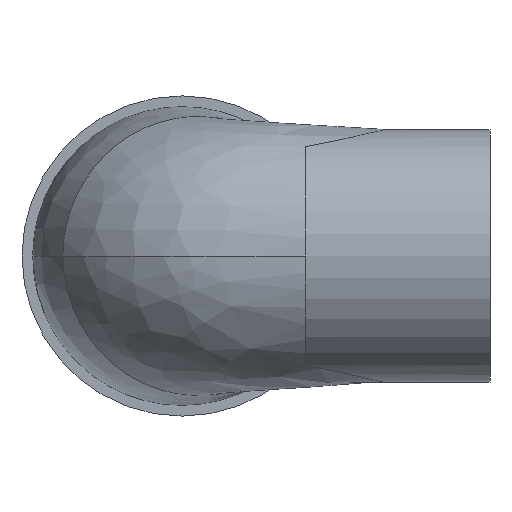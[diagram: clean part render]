
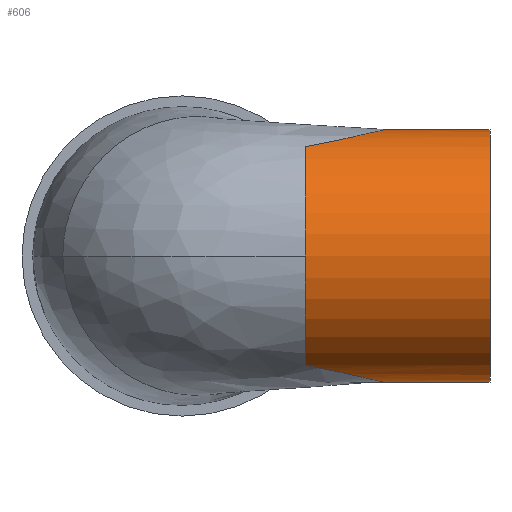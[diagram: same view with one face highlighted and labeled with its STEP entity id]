
A CAD part, left-side view. The second image highlights one B-rep face of the part: STEP entity #606.
In plain terms, the highlighted cylindrical face has radius 20.5 mm (diameter 41 mm), a partial arc.
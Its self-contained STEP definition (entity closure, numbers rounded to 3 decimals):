
#555 = ORIENTED_EDGE ( 'NONE', *, *, #616, .T. ) ;
#556 = ORIENTED_EDGE ( 'NONE', *, *, #710, .T. ) ;
#558 = ORIENTED_EDGE ( 'NONE', *, *, #559, .F. ) ;
#559 = EDGE_CURVE ( 'NONE', #771, #605, #3073, .T. ) ;
#590 = ORIENTED_EDGE ( 'NONE', *, *, #770, .F. ) ;
#604 = ORIENTED_EDGE ( 'NONE', *, *, #782, .F. ) ;
#605 = VERTEX_POINT ( 'NONE', #3531 ) ;
#606 = ADVANCED_FACE ( 'NONE', ( #3556 ), #3555, .T. ) ;
#611 = ORIENTED_EDGE ( 'NONE', *, *, #612, .F. ) ;
#612 = EDGE_CURVE ( 'NONE', #605, #779, #3465, .T. ) ;
#616 = EDGE_CURVE ( 'NONE', #768, #767, #2206, .T. ) ;
#617 = EDGE_LOOP ( 'NONE', ( #590, #555, #556, #604, #611, #558 ) ) ;
#710 = EDGE_CURVE ( 'NONE', #767, #775, #1033, .T. ) ;
#767 = VERTEX_POINT ( 'NONE', #1483 ) ;
#768 = VERTEX_POINT ( 'NONE', #1482 ) ;
#770 = EDGE_CURVE ( 'NONE', #768, #771, #1481, .T. ) ;
#771 = VERTEX_POINT ( 'NONE', #1477 ) ;
#775 = VERTEX_POINT ( 'NONE', #1539 ) ;
#779 = VERTEX_POINT ( 'NONE', #1536 ) ;
#782 = EDGE_CURVE ( 'NONE', #779, #775, #1575, .T. ) ;
#1030 = DIRECTION ( 'NONE',  ( 0., 1., 0. ) ) ;
#1031 = VECTOR ( 'NONE', #1030, 1000. ) ;
#1032 = CARTESIAN_POINT ( 'NONE',  ( 0., 80.819, 20.5 ) ) ;
#1033 = LINE ( 'NONE', #1032, #1031 ) ;
#1477 = CARTESIAN_POINT ( 'NONE',  ( 0., -33.661, -20.5 ) ) ;
#1478 = DIRECTION ( 'NONE',  ( 0., 1., 0. ) ) ;
#1479 = VECTOR ( 'NONE', #1478, 1000. ) ;
#1480 = CARTESIAN_POINT ( 'NONE',  ( 0., 80.819, -20.5 ) ) ;
#1481 = LINE ( 'NONE', #1480, #1479 ) ;
#1482 = CARTESIAN_POINT ( 'NONE',  ( 0., -50., -20.5 ) ) ;
#1483 = CARTESIAN_POINT ( 'NONE',  ( 0., -50., 20.5 ) ) ;
#1536 = CARTESIAN_POINT ( 'NONE',  ( -10.231, -20., 17.765 ) ) ;
#1539 = CARTESIAN_POINT ( 'NONE',  ( 0., -33.661, 20.5 ) ) ;
#1558 = CARTESIAN_POINT ( 'NONE',  ( 0., -33.661, 20.5 ) ) ;
#1559 = CARTESIAN_POINT ( 'NONE',  ( -0.348, -33.518, 20.5 ) ) ;
#1560 = CARTESIAN_POINT ( 'NONE',  ( -0.688, -33.358, 20.491 ) ) ;
#1561 = CARTESIAN_POINT ( 'NONE',  ( -1.347, -33.011, 20.458 ) ) ;
#1562 = CARTESIAN_POINT ( 'NONE',  ( -1.668, -32.823, 20.434 ) ) ;
#1563 = CARTESIAN_POINT ( 'NONE',  ( -2.292, -32.424, 20.374 ) ) ;
#1564 = CARTESIAN_POINT ( 'NONE',  ( -2.595, -32.211, 20.337 ) ) ;
#1565 = CARTESIAN_POINT ( 'NONE',  ( -3.187, -31.763, 20.253 ) ) ;
#1566 = CARTESIAN_POINT ( 'NONE',  ( -3.476, -31.526, 20.205 ) ) ;
#1567 = CARTESIAN_POINT ( 'NONE',  ( -4.868, -30.299, 19.946 ) ) ;
#1568 = CARTESIAN_POINT ( 'NONE',  ( -5.815, -29.183, 19.677 ) ) ;
#1569 = CARTESIAN_POINT ( 'NONE',  ( -7.46, -26.738, 19.114 ) ) ;
#1570 = CARTESIAN_POINT ( 'NONE',  ( -8.132, -25.445, 18.829 ) ) ;
#1571 = CARTESIAN_POINT ( 'NONE',  ( -9.299, -22.779, 18.281 ) ) ;
#1572 = CARTESIAN_POINT ( 'NONE',  ( -9.794, -21.404, 18.016 ) ) ;
#1574 = CARTESIAN_POINT ( 'NONE',  ( -10.231, -20., 17.765 ) ) ;
#1575 = B_SPLINE_CURVE_WITH_KNOTS ( 'NONE', 3,
 ( #1574, #1572, #1571, #1570, #1569, #1568, #1567, #1566, #1565, #1564, #1563, #1562, #1561, #1560, #1559, #1558 ),
 .UNSPECIFIED., .F., .F.,
 ( 4, 2, 2, 2, 2, 2, 2, 4 ),
 ( 0., 0.004, 0.009, 0.013, 0.014, 0.016, 0.017, 0.018 ),
 .UNSPECIFIED. ) ;
#2206 = CIRCLE ( 'NONE', #2332, 20.5 ) ;
#2210 = CARTESIAN_POINT ( 'NONE',  ( 0., -50., 0. ) ) ;
#2216 = DIRECTION ( 'NONE',  ( 0., 0., 1. ) ) ;
#2228 = DIRECTION ( 'NONE',  ( 0., 1., 0. ) ) ;
#2332 = AXIS2_PLACEMENT_3D ( 'NONE', #2210, #2228, #2216 ) ;
#3073 = B_SPLINE_CURVE_WITH_KNOTS ( 'NONE', 3,
 ( #3103, #3102, #3101, #3150, #3149, #3124, #3123, #3122, #3078, #3077, #3076, #3086, #3085, #3084, #3083, #3082, #3081, #3080 ),
 .UNSPECIFIED., .F., .F.,
 ( 4, 2, 2, 2, 2, 2, 2, 2, 4 ),
 ( 0.027, 0.029, 0.031, 0.032, 0.034, 0.035, 0.036, 0.041, 0.045 ),
 .UNSPECIFIED. ) ;
#3076 = CARTESIAN_POINT ( 'NONE',  ( -5.779, -29.144, -19.67 ) ) ;
#3077 = CARTESIAN_POINT ( 'NONE',  ( -5.548, -29.429, -19.737 ) ) ;
#3078 = CARTESIAN_POINT ( 'NONE',  ( -4.83, -30.262, -19.929 ) ) ;
#3080 = CARTESIAN_POINT ( 'NONE',  ( -10.231, -20., -17.765 ) ) ;
#3081 = CARTESIAN_POINT ( 'NONE',  ( -9.794, -21.404, -18.016 ) ) ;
#3082 = CARTESIAN_POINT ( 'NONE',  ( -9.299, -22.778, -18.281 ) ) ;
#3083 = CARTESIAN_POINT ( 'NONE',  ( -8.134, -25.441, -18.828 ) ) ;
#3084 = CARTESIAN_POINT ( 'NONE',  ( -7.464, -26.731, -19.113 ) ) ;
#3085 = CARTESIAN_POINT ( 'NONE',  ( -6.439, -28.256, -19.464 ) ) ;
#3086 = CARTESIAN_POINT ( 'NONE',  ( -6.224, -28.558, -19.534 ) ) ;
#3101 = CARTESIAN_POINT ( 'NONE',  ( -1.354, -33.024, -20.465 ) ) ;
#3102 = CARTESIAN_POINT ( 'NONE',  ( -0.696, -33.375, -20.5 ) ) ;
#3103 = CARTESIAN_POINT ( 'NONE',  ( 0., -33.661, -20.5 ) ) ;
#3122 = CARTESIAN_POINT ( 'NONE',  ( -4.316, -30.785, -20.048 ) ) ;
#3123 = CARTESIAN_POINT ( 'NONE',  ( -3.486, -31.518, -20.203 ) ) ;
#3124 = CARTESIAN_POINT ( 'NONE',  ( -3.199, -31.754, -20.251 ) ) ;
#3149 = CARTESIAN_POINT ( 'NONE',  ( -2.604, -32.205, -20.336 ) ) ;
#3150 = CARTESIAN_POINT ( 'NONE',  ( -2.296, -32.42, -20.373 ) ) ;
#3461 = DIRECTION ( 'NONE',  ( 0., 0., 1. ) ) ;
#3462 = DIRECTION ( 'NONE',  ( 0., 1., 0. ) ) ;
#3463 = CARTESIAN_POINT ( 'NONE',  ( 0., -20., 0. ) ) ;
#3464 = AXIS2_PLACEMENT_3D ( 'NONE', #3463, #3462, #3461 ) ;
#3465 = CIRCLE ( 'NONE', #3464, 20.5 ) ;
#3517 = DIRECTION ( 'NONE',  ( 0., 0., 1. ) ) ;
#3518 = DIRECTION ( 'NONE',  ( 0., 1., 0. ) ) ;
#3519 = CARTESIAN_POINT ( 'NONE',  ( 0., 80.819, 0. ) ) ;
#3520 = AXIS2_PLACEMENT_3D ( 'NONE', #3519, #3518, #3517 ) ;
#3531 = CARTESIAN_POINT ( 'NONE',  ( -10.231, -20., -17.765 ) ) ;
#3555 = CYLINDRICAL_SURFACE ( 'NONE', #3520, 20.5 ) ;
#3556 = FACE_OUTER_BOUND ( 'NONE', #617, .T. ) ;
